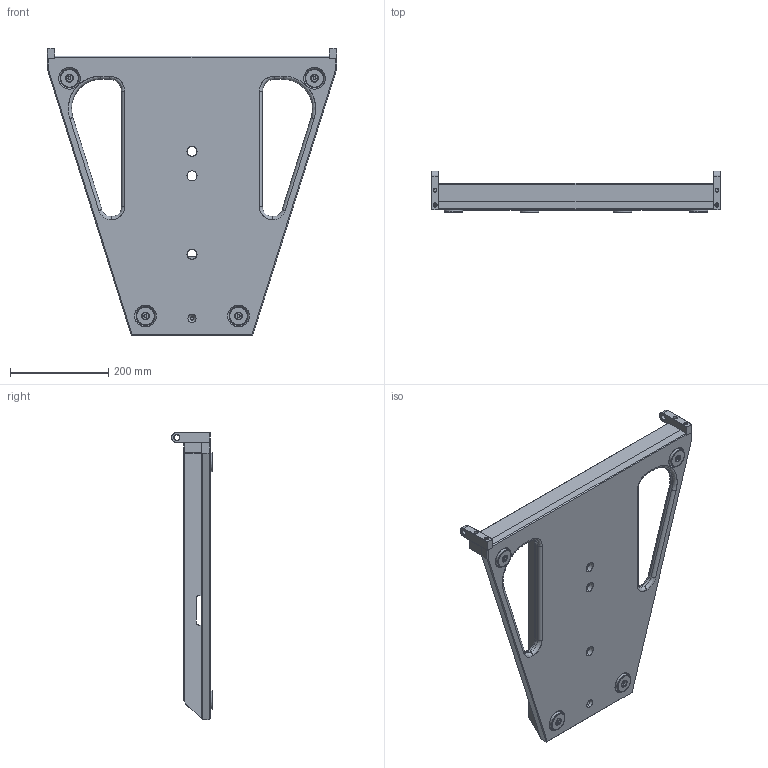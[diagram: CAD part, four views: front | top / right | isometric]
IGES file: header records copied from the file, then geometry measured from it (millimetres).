
Start section: SolidWorks IGES file using analytic representation for surfaces
Global section: file name: C:\Documents and Settings\Administrator\My Documents\Michl\SolidWorks\3d_Dateien_Homepage\Neue-Produkte\Galeo_Stackingboard.IGS; native system: SolidWorks 2009; preprocessor: SolidWorks 2009; author: Administrator; date: 140404.104704; units: millimetre
Bounding box: 590 x 84 x 586 mm (x, y, z)
Surface area: 702398.5 mm2 (no closed solid volume)
Topology: 0 solids, 0 shells, 378 faces, 5204 edges, 5204 vertices
Faces by surface type: bspline 200, revolution 178
